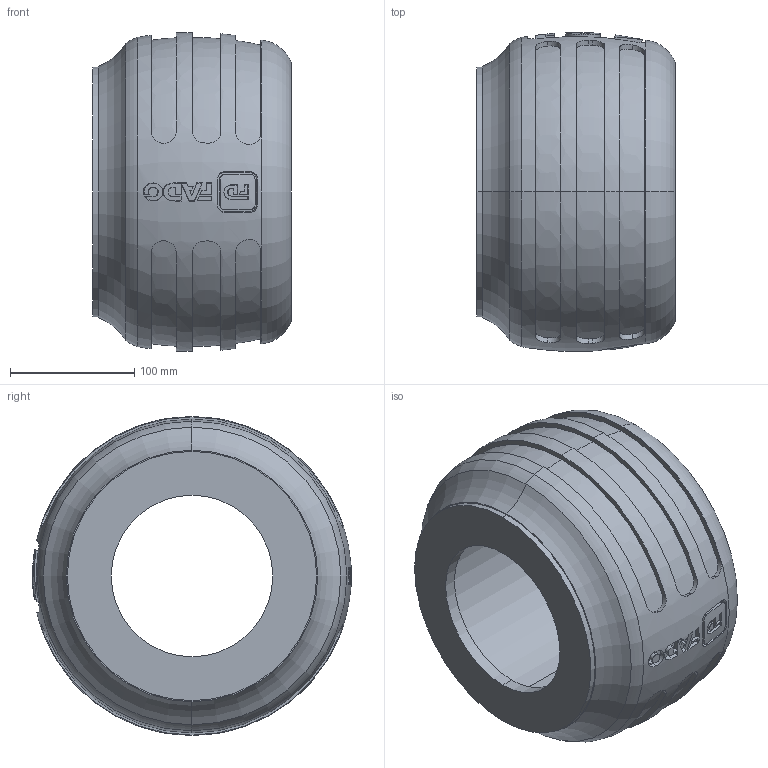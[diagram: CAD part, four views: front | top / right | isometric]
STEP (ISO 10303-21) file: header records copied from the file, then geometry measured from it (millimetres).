
FILE_DESCRIPTION (( 'STEP AP203' ), '1' );
FILE_NAME ('PSG01 FADO.STEP', '2022-09-05T20:28:38', ( '' ), ( '' ), 'SwSTEP 2.0', 'SolidWorks 2021', '' );
FILE_SCHEMA (( 'CONFIG_CONTROL_DESIGN' ));
Length unit declared in the file: millimetre
Products named in the file (1): PSG01 FADO
Bounding box: 159.4 x 256.72 x 256.74 mm (x, y, z)
Volume: 3990480.7 mm3; surface area: 273609.8 mm2
Topology: 1 solids, 1 shells, 189 faces, 513 edges, 340 vertices
Faces by surface type: bspline 106, torus 32, cylinder 30, plane 21
Entity records: 20978 total; most frequent: CARTESIAN_POINT 17079, ORIENTED_EDGE 1026, EDGE_CURVE 513, DIRECTION 410, B_SPLINE_CURVE_WITH_KNOTS 369, VERTEX_POINT 340, EDGE_LOOP 205, ADVANCED_FACE 189
